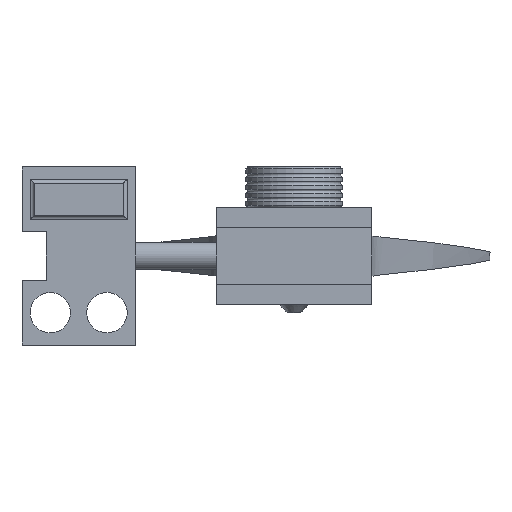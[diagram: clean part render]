
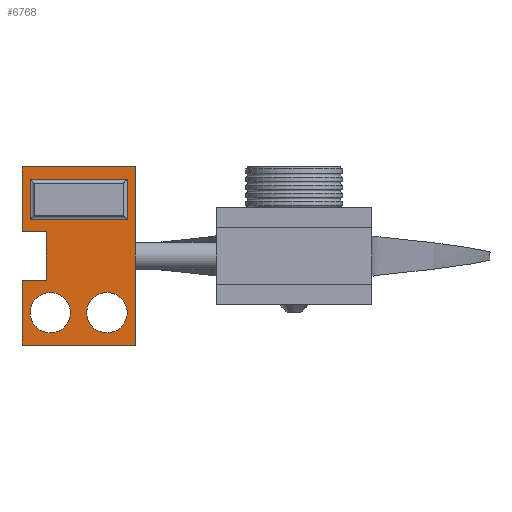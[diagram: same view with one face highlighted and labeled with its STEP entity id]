
A CAD part, left-side view. The second image highlights one B-rep face of the part: STEP entity #6768.
In plain terms, the highlighted planar face has unit normal (-1, 0, 0).
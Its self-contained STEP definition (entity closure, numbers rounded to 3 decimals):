
#152=FACE_BOUND('',#1080,.T.);
#153=FACE_BOUND('',#1081,.T.);
#154=FACE_BOUND('',#1082,.T.);
#155=FACE_BOUND('',#1083,.T.);
#241=PLANE('',#7689);
#608=FACE_OUTER_BOUND('',#1079,.T.);
#1079=EDGE_LOOP('',(#5909,#5910,#5911,#5912,#5913,#5914,#5915,#5916));
#1080=EDGE_LOOP('',(#5917));
#1081=EDGE_LOOP('',(#5918));
#1082=EDGE_LOOP('',(#5919));
#1083=EDGE_LOOP('',(#5920));
#1499=LINE('',#12227,#1918);
#1504=LINE('',#12236,#1923);
#1505=LINE('',#12239,#1924);
#1511=LINE('',#12261,#1930);
#1513=LINE('',#12264,#1932);
#1514=LINE('',#12277,#1933);
#1515=LINE('',#12279,#1934);
#1516=LINE('',#12280,#1935);
#1918=VECTOR('',#9774,10.);
#1923=VECTOR('',#9781,10.);
#1924=VECTOR('',#9784,10.);
#1930=VECTOR('',#9804,10.);
#1932=VECTOR('',#9808,10.);
#1933=VECTOR('',#9823,10.);
#1934=VECTOR('',#9824,10.);
#1935=VECTOR('',#9825,10.);
#2524=CIRCLE('',#7676,2.5);
#2526=CIRCLE('',#7679,2.5);
#2528=CIRCLE('',#7684,2.5);
#2530=CIRCLE('',#7687,2.5);
#3134=VERTEX_POINT('',#12223);
#3136=VERTEX_POINT('',#12226);
#3139=VERTEX_POINT('',#12234);
#3140=VERTEX_POINT('',#12238);
#3142=VERTEX_POINT('',#12244);
#3144=VERTEX_POINT('',#12249);
#3146=VERTEX_POINT('',#12254);
#3149=VERTEX_POINT('',#12259);
#3150=VERTEX_POINT('',#12266);
#3152=VERTEX_POINT('',#12271);
#3154=VERTEX_POINT('',#12276);
#3155=VERTEX_POINT('',#12278);
#4068=EDGE_CURVE('',#3134,#3136,#1499,.T.);
#4073=EDGE_CURVE('',#3134,#3139,#1504,.T.);
#4074=EDGE_CURVE('',#3140,#3136,#1505,.T.);
#4077=EDGE_CURVE('',#3142,#3142,#2524,.T.);
#4079=EDGE_CURVE('',#3144,#3144,#2526,.T.);
#4084=EDGE_CURVE('',#3146,#3149,#1511,.T.);
#4086=EDGE_CURVE('',#3149,#3140,#1513,.T.);
#4087=EDGE_CURVE('',#3150,#3150,#2528,.T.);
#4089=EDGE_CURVE('',#3152,#3152,#2530,.T.);
#4091=EDGE_CURVE('',#3154,#3146,#1514,.T.);
#4092=EDGE_CURVE('',#3139,#3155,#1515,.T.);
#4093=EDGE_CURVE('',#3155,#3154,#1516,.T.);
#5909=ORIENTED_EDGE('',*,*,#4091,.T.);
#5910=ORIENTED_EDGE('',*,*,#4084,.T.);
#5911=ORIENTED_EDGE('',*,*,#4086,.T.);
#5912=ORIENTED_EDGE('',*,*,#4074,.T.);
#5913=ORIENTED_EDGE('',*,*,#4068,.F.);
#5914=ORIENTED_EDGE('',*,*,#4073,.T.);
#5915=ORIENTED_EDGE('',*,*,#4092,.T.);
#5916=ORIENTED_EDGE('',*,*,#4093,.T.);
#5917=ORIENTED_EDGE('',*,*,#4079,.T.);
#5918=ORIENTED_EDGE('',*,*,#4077,.T.);
#5919=ORIENTED_EDGE('',*,*,#4087,.T.);
#5920=ORIENTED_EDGE('',*,*,#4089,.T.);
#6768=ADVANCED_FACE('',(#608,#152,#153,#154,#155),#241,.T.);
#7676=AXIS2_PLACEMENT_3D('',#12245,#9789,#9790);
#7679=AXIS2_PLACEMENT_3D('',#12250,#9795,#9796);
#7684=AXIS2_PLACEMENT_3D('',#12267,#9811,#9812);
#7687=AXIS2_PLACEMENT_3D('',#12272,#9817,#9818);
#7689=AXIS2_PLACEMENT_3D('',#12275,#9821,#9822);
#9774=DIRECTION('',(0.,0.,1.));
#9781=DIRECTION('',(0.,1.,0.));
#9784=DIRECTION('',(0.,-1.,0.));
#9789=DIRECTION('center_axis',(1.,0.,0.));
#9790=DIRECTION('ref_axis',(0.,-1.,0.));
#9795=DIRECTION('center_axis',(1.,0.,0.));
#9796=DIRECTION('ref_axis',(0.,-1.,0.));
#9804=DIRECTION('',(0.,1.,0.));
#9808=DIRECTION('',(0.,0.,-1.));
#9811=DIRECTION('center_axis',(1.,0.,0.));
#9812=DIRECTION('ref_axis',(0.,-1.,0.));
#9817=DIRECTION('center_axis',(1.,0.,0.));
#9818=DIRECTION('ref_axis',(0.,-1.,0.));
#9821=DIRECTION('center_axis',(-1.,0.,0.));
#9822=DIRECTION('ref_axis',(0.,0.,1.));
#9823=DIRECTION('',(0.,0.,1.));
#9824=DIRECTION('',(0.,0.,-1.));
#9825=DIRECTION('',(0.,-1.,0.));
#12223=CARTESIAN_POINT('',(-61.007,30.619,-3.));
#12226=CARTESIAN_POINT('',(-61.007,30.619,3.));
#12227=CARTESIAN_POINT('',(-61.007,30.619,3.));
#12234=CARTESIAN_POINT('',(-61.007,33.619,-3.));
#12236=CARTESIAN_POINT('',(-61.007,33.619,-3.));
#12238=CARTESIAN_POINT('',(-61.007,33.619,3.));
#12239=CARTESIAN_POINT('',(-61.007,19.619,3.));
#12244=CARTESIAN_POINT('',(-61.007,25.619,7.));
#12245=CARTESIAN_POINT('Origin',(-61.007,23.119,7.));
#12249=CARTESIAN_POINT('',(-61.007,32.619,7.));
#12250=CARTESIAN_POINT('Origin',(-61.007,30.119,7.));
#12254=CARTESIAN_POINT('',(-61.007,19.619,11.));
#12259=CARTESIAN_POINT('',(-61.007,33.619,11.));
#12261=CARTESIAN_POINT('',(-61.007,33.619,11.));
#12264=CARTESIAN_POINT('',(-61.007,33.619,3.));
#12266=CARTESIAN_POINT('',(-61.007,32.619,-7.));
#12267=CARTESIAN_POINT('Origin',(-61.007,30.119,-7.));
#12271=CARTESIAN_POINT('',(-61.007,25.619,-7.));
#12272=CARTESIAN_POINT('Origin',(-61.007,23.119,-7.));
#12275=CARTESIAN_POINT('Origin',(-61.007,26.619,-7.));
#12276=CARTESIAN_POINT('',(-61.007,19.619,-11.));
#12277=CARTESIAN_POINT('',(-61.007,19.619,-3.));
#12278=CARTESIAN_POINT('',(-61.007,33.619,-11.));
#12279=CARTESIAN_POINT('',(-61.007,33.619,-11.));
#12280=CARTESIAN_POINT('',(-61.007,19.619,-11.));
